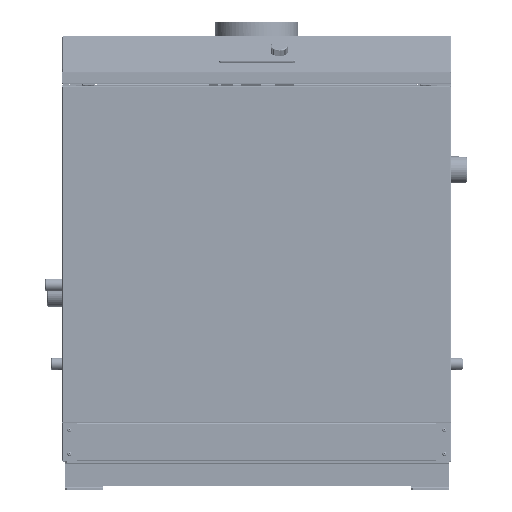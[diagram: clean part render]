
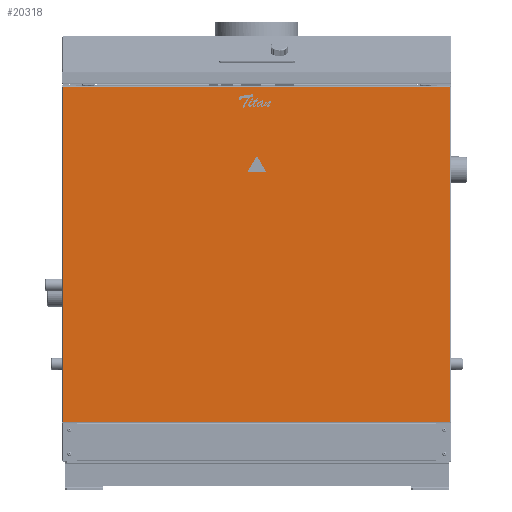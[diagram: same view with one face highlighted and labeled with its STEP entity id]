
A CAD part, top view. The second image highlights one B-rep face of the part: STEP entity #20318.
In plain terms, the highlighted planar face has unit normal (0, 0, 1) as drawn and (0, 1, 0) by its records, which use the part's own axes.
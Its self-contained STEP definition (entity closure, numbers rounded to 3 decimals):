
#20318=ADVANCED_FACE('',(#56074),#56076,.T.);
#56074=FACE_BOUND('',#56075,.T.);
#56075=EDGE_LOOP('',(#82960,#82961,#82962,#82963));
#56076=PLANE('',#56077);
#56077=AXIS2_PLACEMENT_3D('',#56078,#56079,#56080);
#56078=CARTESIAN_POINT('',(-0.,1.,0.));
#56079=DIRECTION('',(0.,1.,0.));
#56080=DIRECTION('',(-1.,0.,0.));
#82960=ORIENTED_EDGE('',*,*,#97720,.T.);
#82961=ORIENTED_EDGE('',*,*,#97741,.T.);
#82962=ORIENTED_EDGE('',*,*,#97744,.T.);
#82963=ORIENTED_EDGE('',*,*,#97750,.T.);
#97720=EDGE_CURVE('',#114293,#114262,#114303,.T.);
#97741=EDGE_CURVE('',#114262,#114259,#114333,.T.);
#97744=EDGE_CURVE('',#114259,#114285,#114337,.T.);
#97750=EDGE_CURVE('',#114285,#114293,#114345,.T.);
#114259=VERTEX_POINT('',#176279);
#114262=VERTEX_POINT('',#176307);
#114285=VERTEX_POINT('',#176404);
#114293=VERTEX_POINT('',#176443);
#114303=LINE('',#176509,#176510);
#114333=LINE('',#176583,#176584);
#114337=LINE('',#176593,#176594);
#114345=LINE('',#176613,#176614);
#176279=CARTESIAN_POINT('',(-408.,1.,353.5));
#176307=CARTESIAN_POINT('',(-408.,1.,-353.5));
#176404=CARTESIAN_POINT('',(408.,1.,353.5));
#176443=CARTESIAN_POINT('',(408.,1.,-353.5));
#176509=CARTESIAN_POINT('',(408.,1.,-353.5));
#176510=VECTOR('',#176511,1.);
#176511=DIRECTION('',(-1.,0.,0.));
#176583=CARTESIAN_POINT('',(-408.,1.,-353.5));
#176584=VECTOR('',#176585,1.);
#176585=DIRECTION('',(0.,0.,1.));
#176593=CARTESIAN_POINT('',(-408.,1.,353.5));
#176594=VECTOR('',#176595,1.);
#176595=DIRECTION('',(1.,0.,0.));
#176613=CARTESIAN_POINT('',(408.,1.,353.5));
#176614=VECTOR('',#176615,1.);
#176615=DIRECTION('',(0.,0.,-1.));
